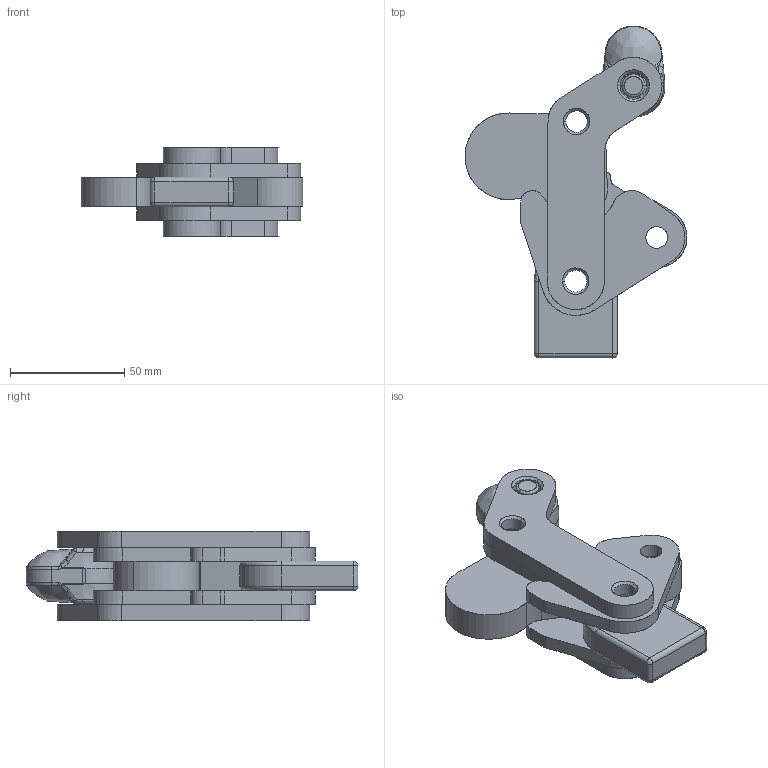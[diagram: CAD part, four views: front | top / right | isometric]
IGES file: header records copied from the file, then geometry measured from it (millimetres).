
Start section: SolidWorks IGES file using analytic representation for surfaces
Global section: file name: D:\GH Files\GH-SW-FILES\GH7\702D,701D\702D.IGS; native system: SolidWorks 2006 by SolidWorks Corporation; preprocessor: SolidWorks 2006 by SolidWorks Corporation; author: Administrator; date: 060705.130119; units: millimetre
Bounding box: 97.29 x 145.52 x 39.4 mm (x, y, z)
Surface area: 54817.7 mm2 (no closed solid volume)
Topology: 0 solids, 0 shells, 254 faces, 3654 edges, 3653 vertices
Faces by surface type: revolution 135, bspline 119
